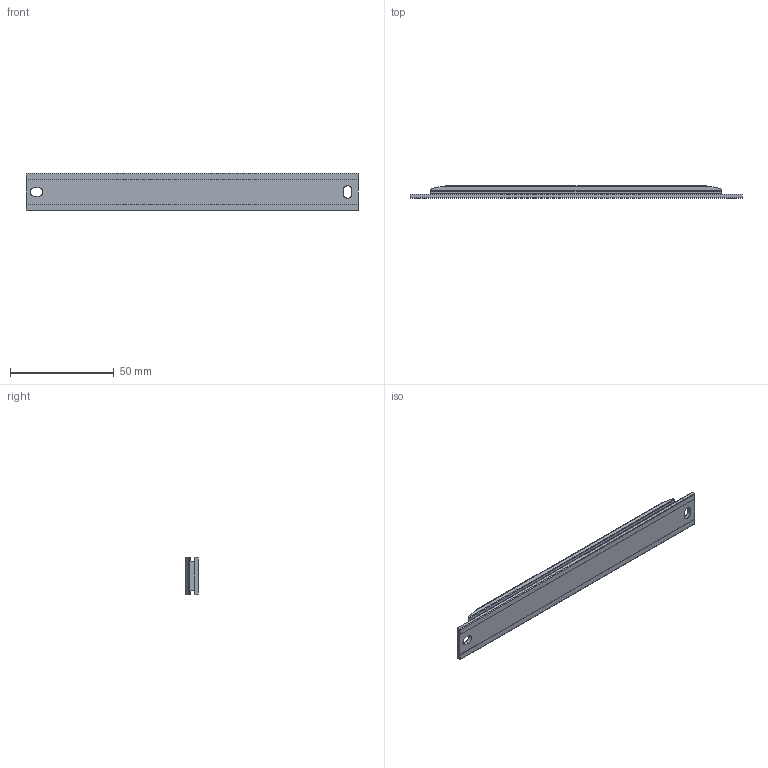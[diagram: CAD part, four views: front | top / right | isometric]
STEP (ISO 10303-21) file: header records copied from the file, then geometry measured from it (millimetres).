
FILE_DESCRIPTION (( 'STEP AP214' ), '1' );
FILE_NAME ('HLMScale.ScaleLength160.STEP', '2023-02-07T05:55:24', ( '' ), ( '' ), 'SwSTEP 2.0', 'SolidWorks 2020', '' );
FILE_SCHEMA (( 'AUTOMOTIVE_DESIGN' ));
Length unit declared in the file: millimetre
Products named in the file (1): HLMScale.ScaleLength160
Bounding box: 160 x 6.08 x 18 mm (x, y, z)
Volume: 14699.3 mm3; surface area: 8645.4 mm2
Topology: 1 solids, 1 shells, 56 faces, 149 edges, 98 vertices
Faces by surface type: plane 31, cylinder 25
Entity records: 1857 total; most frequent: CARTESIAN_POINT 412, ORIENTED_EDGE 298, DIRECTION 285, EDGE_CURVE 149, LINE 103, VECTOR 103, VERTEX_POINT 98, AXIS2_PLACEMENT_3D 91
